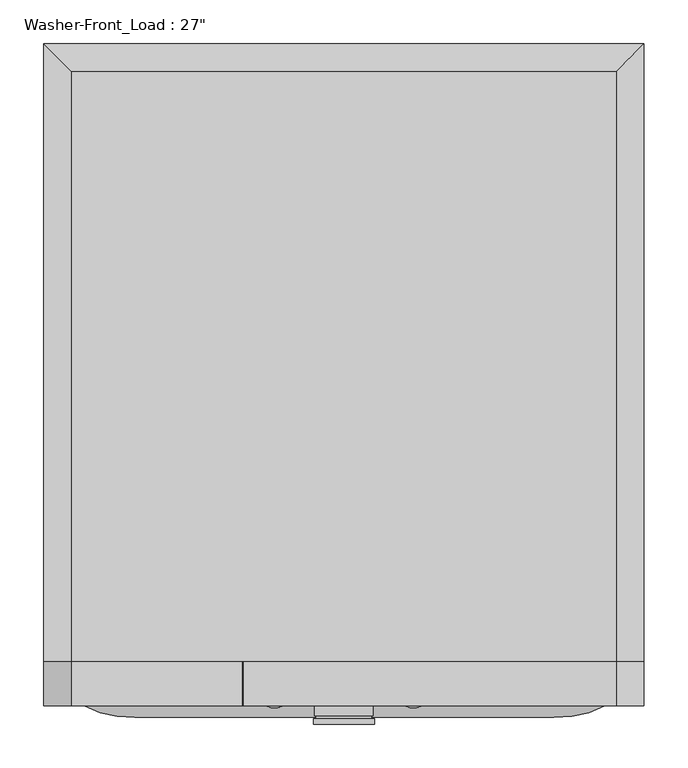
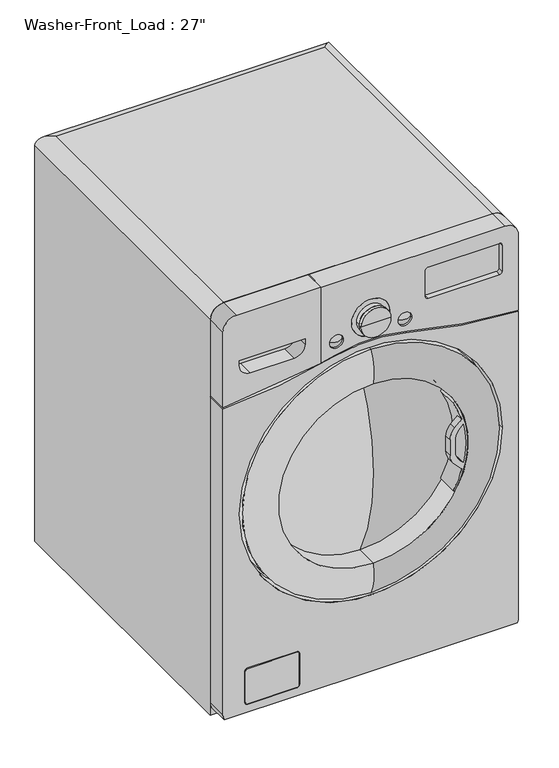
"""IFC4 building model written with IfcOpenShell, lengths in millimetres: proxy geometry."""

from ifc_helpers import new_model, si_unit, point, frame, frame_2d, origin, place, context, project, spatial, polyline, circle_curve, ellipse_curve, trimmed, segment, composite_curve, outline, extrude, source, transform, mapped, element, save
from ifc_brep_helpers import plane_surface, cylinder_surface, revolved_surface, advanced_brep


def proxy_e25b1b2c(model_context):
    return source(origin(), model_context, "Body", "SolidModel", [
        advanced_brep(
        [(-311.15, -806.45, 1001.7125), (311.15, -806.45, 1001.7125), (311.15, -133.35, 1001.7125), (-311.15, -133.35, 1001.7125), (342.9, -101.6, 0.0), (342.9, -806.45, 0.0), (-342.9, -806.45, 0.0), (-342.9, -101.6, 0.0), (-342.9, -101.6, 969.9625), (342.9, -101.6, 969.9625), (-342.9, -806.45, 969.9625), (342.9, -806.45, 969.9625)],
        [
            (0, 1),
            (1, 2),
            (2, 3),
            (3, 0),
            (4, 5),
            (5, 6),
            (6, 7),
            (7, 4),
            (7, 8),
            (8, 9),
            (9, 4),
            (6, 10),
            (10, 8),
            (5, 11),
            (11, 1, circle_curve(frame((311.15, -806.45, 969.9625), z_axis=(0.0, -1.0, 0.0), x_axis=(-1.0, 0.0, 0.0)), 31.75)),
            (0, 10, circle_curve(frame((-311.15, -806.45, 969.9625), z_axis=(0.0, -1.0, 0.0), x_axis=(1.0, 0.0, 0.0)), 31.75)),
            (9, 11),
            (9, 2, ellipse_curve(frame((311.15, -133.35, 969.9625), z_axis=(0.7071067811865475, -0.7071067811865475, 0.0), x_axis=(0.7071067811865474, 0.7071067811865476, 0.0)), 44.9012806, 31.75)),
            (8, 3, ellipse_curve(frame((-311.15, -133.35, 969.9625), z_axis=(0.7071067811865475, 0.7071067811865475, 0.0), x_axis=(-0.7071067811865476, 0.7071067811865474, 0.0)), 44.9012806, 31.75)),
        ],
        [
            plane_surface(frame((-342.9, -101.6, 1001.7125), z_axis=(0.0, 0.0, 1.0), x_axis=(-1.0, 0.0, 0.0))),
            plane_surface(frame((-342.9, -101.6, 0.0), z_axis=(0.0, 0.0, -1.0), x_axis=(1.0, 0.0, 0.0))),
            plane_surface(frame((342.9, -101.6, 1001.7125), z_axis=(0.0, 1.0, 0.0), x_axis=(0.0, 0.0, -1.0))),
            plane_surface(frame((-342.9, -101.6, 1001.7125), z_axis=(-1.0, 0.0, 0.0), x_axis=(0.0, 0.0, -1.0))),
            plane_surface(frame((-342.9, -806.45, 1001.7125), z_axis=(0.0, -1.0, 0.0), x_axis=(0.0, 0.0, -1.0))),
            plane_surface(frame((342.9, -806.45, 1001.7125), z_axis=(1.0, 0.0, 0.0), x_axis=(0.0, 0.0, -1.0))),
            cylinder_surface(frame((311.15, -806.45, 969.9625), z_axis=(0.0, 1.0, 0.0), x_axis=(-1.0, 0.0, 0.0)), 31.75),
            cylinder_surface(frame((342.9, -133.35, 969.9625), z_axis=(-1.0, 0.0, 0.0), x_axis=(0.0, -1.0, 0.0)), 31.75),
            cylinder_surface(frame((-311.15, -101.6, 969.9625), z_axis=(0.0, -1.0, 0.0), x_axis=(1.0, 0.0, 0.0)), 31.75),
        ],
        [
            (0, [[1, 2, 3, 4]]),
            (1, [[5, 6, 7, 8]]),
            (2, [[-8, 9, 10, 11]]),
            (3, [[-7, 12, 13, -9]]),
            (4, [[-6, 14, 15, -1, 16, -12]]),
            (5, [[-5, -11, 17, -14]]),
            (6, [[18, -2, -15, -17]]),
            (7, [[-18, -10, 19, -3]]),
            (8, [[-19, -13, -16, -4]]),
        ],
    ),
        advanced_brep(
        [(311.15, -806.45, 1001.7125), (342.9, -806.45, 969.9625), (342.9, -806.45, 785.0085923), (83.8185478, -806.45, 823.1963288), (-83.8185478, -806.45, 823.1963288), (-114.8640352, -806.45, 815.3447282), (-114.8640352, -806.45, 1001.7125), (-63.5, -806.45, 855.6625), (-95.25, -806.45, 855.6625), (95.25, -806.45, 855.6625), (63.5, -806.45, 855.6625), (-44.45, -806.45, 887.4125), (44.45, -806.45, 887.4125), (-83.8185478, -857.25, 823.1963288), (83.8185478, -857.25, 823.1963288), (342.9, -857.25, 785.0085923), (342.9, -857.25, 969.9625), (311.15, -857.25, 1001.7125), (-114.8640352, -857.25, 1001.7125), (-114.8640352, -857.25, 815.3447282), (-63.5, -857.25, 855.6625), (-95.25, -857.25, 855.6625), (95.25, -857.25, 855.6625), (63.5, -857.25, 855.6625), (298.45, -857.25, 887.4125), (133.35, -857.25, 887.4125), (127.0, -857.25, 893.7625), (127.0, -857.25, 957.2625), (133.35, -857.25, 963.6125), (298.45, -857.25, 963.6125), (304.8, -857.25, 957.2625), (304.8, -857.25, 893.7625), (44.45, -857.25, 887.4125), (-44.45, -857.25, 887.4125), (298.45, -844.55, 887.4125), (304.8, -844.55, 893.7625), (304.8, -844.55, 957.2625), (298.45, -844.55, 963.6125), (133.35, -844.55, 963.6125), (127.0, -844.55, 957.2625), (127.0, -844.55, 893.7625), (133.35, -844.55, 887.4125)],
        [
            (0, 1, circle_curve(frame((311.15, -806.45, 969.9625), z_axis=(0.0, 1.0, 0.0), x_axis=(-1.0, 0.0, 0.0)), 31.75)),
            (1, 2),
            (2, 3, circle_curve(frame((378.000978, -806.45, 1921.1001052), z_axis=(0.0, 1.0, 0.0), x_axis=(-1.0, 0.0, 0.0)), 1136.633628)),
            (3, 4, circle_curve(frame((0.0, -806.45, 510.38125), z_axis=(0.0, -1.0, 0.0), x_axis=(-1.0, 0.0, 0.0)), 323.85)),
            (4, 5, circle_curve(frame((-378.000978, -806.45, 1921.1001052), z_axis=(0.0, 1.0, 0.0), x_axis=(-1.0, 0.0, 0.0)), 1136.633628)),
            (5, 6),
            (6, 0),
            (7, 8, circle_curve(frame((-79.375, -806.45, 855.6625), z_axis=(0.0, -1.0, 0.0), x_axis=(-1.0, 0.0, 0.0)), 15.875)),
            (8, 7, circle_curve(frame((-79.375, -806.45, 855.6625), z_axis=(0.0, -1.0, 0.0), x_axis=(-1.0, 0.0, 0.0)), 15.875)),
            (9, 10, circle_curve(frame((79.375, -806.45, 855.6625), z_axis=(0.0, -1.0, 0.0), x_axis=(-1.0, 0.0, 0.0)), 15.875)),
            (10, 9, circle_curve(frame((79.375, -806.45, 855.6625), z_axis=(0.0, -1.0, 0.0), x_axis=(-1.0, 0.0, 0.0)), 15.875)),
            (11, 12, circle_curve(frame((0.0, -806.45, 887.4125), z_axis=(0.0, -1.0, 0.0), x_axis=(-1.0, 0.0, 0.0)), 44.45)),
            (12, 11, circle_curve(frame((0.0, -806.45, 887.4125), z_axis=(0.0, -1.0, 0.0), x_axis=(-1.0, 0.0, 0.0)), 44.45)),
            (13, 14, circle_curve(frame((0.0, -857.25, 510.38125), z_axis=(0.0, 1.0, 0.0), x_axis=(-1.0, 0.0, 0.0)), 323.85)),
            (14, 15, circle_curve(frame((378.000978, -857.25, 1921.1001052), z_axis=(0.0, -1.0, 0.0), x_axis=(-1.0, 0.0, 0.0)), 1136.633628)),
            (15, 16),
            (16, 17, circle_curve(frame((311.15, -857.25, 969.9625), z_axis=(0.0, -1.0, 0.0), x_axis=(-1.0, 0.0, 0.0)), 31.75)),
            (17, 18),
            (18, 19),
            (19, 13, circle_curve(frame((-378.000978, -857.25, 1921.1001052), z_axis=(0.0, -1.0, 0.0), x_axis=(-1.0, 0.0, 0.0)), 1136.633628)),
            (20, 21, circle_curve(frame((-79.375, -857.25, 855.6625), z_axis=(0.0, 1.0, 0.0), x_axis=(-1.0, 0.0, 0.0)), 15.875)),
            (21, 20, circle_curve(frame((-79.375, -857.25, 855.6625), z_axis=(0.0, 1.0, 0.0), x_axis=(-1.0, 0.0, 0.0)), 15.875)),
            (22, 23, circle_curve(frame((79.375, -857.25, 855.6625), z_axis=(0.0, 1.0, 0.0), x_axis=(-1.0, 0.0, 0.0)), 15.875)),
            (23, 22, circle_curve(frame((79.375, -857.25, 855.6625), z_axis=(0.0, 1.0, 0.0), x_axis=(-1.0, 0.0, 0.0)), 15.875)),
            (24, 25),
            (25, 26, circle_curve(frame((133.35, -857.25, 893.7625), z_axis=(0.0, 1.0, 0.0), x_axis=(-1.0, 0.0, 0.0)), 6.35)),
            (26, 27),
            (27, 28, circle_curve(frame((133.35, -857.25, 957.2625), z_axis=(0.0, 1.0, 0.0), x_axis=(-1.0, 0.0, 0.0)), 6.35)),
            (28, 29),
            (29, 30, circle_curve(frame((298.45, -857.25, 957.2625), z_axis=(0.0, 1.0, 0.0), x_axis=(-1.0, 0.0, 0.0)), 6.35)),
            (30, 31),
            (31, 24, circle_curve(frame((298.45, -857.25, 893.7625), z_axis=(0.0, 1.0, 0.0), x_axis=(-1.0, 0.0, 0.0)), 6.35)),
            (32, 33, circle_curve(frame((0.0, -857.25, 887.4125), z_axis=(0.0, 1.0, 0.0), x_axis=(-1.0, 0.0, 0.0)), 44.45)),
            (33, 32, circle_curve(frame((0.0, -857.25, 887.4125), z_axis=(0.0, 1.0, 0.0), x_axis=(-1.0, 0.0, 0.0)), 44.45)),
            (17, 0),
            (6, 18),
            (16, 1),
            (15, 2),
            (14, 3),
            (13, 4),
            (19, 5),
            (34, 35, circle_curve(frame((298.45, -844.55, 893.7625), z_axis=(0.0, -1.0, 0.0), x_axis=(-1.0, 0.0, 0.0)), 6.35)),
            (35, 36),
            (36, 37, circle_curve(frame((298.45, -844.55, 957.2625), z_axis=(0.0, -1.0, 0.0), x_axis=(-1.0, 0.0, 0.0)), 6.35)),
            (37, 38),
            (38, 39, circle_curve(frame((133.35, -844.55, 957.2625), z_axis=(0.0, -1.0, 0.0), x_axis=(-1.0, 0.0, 0.0)), 6.35)),
            (39, 40),
            (40, 41, circle_curve(frame((133.35, -844.55, 893.7625), z_axis=(0.0, -1.0, 0.0), x_axis=(-1.0, 0.0, 0.0)), 6.35)),
            (41, 34),
            (41, 25),
            (24, 34),
            (40, 26),
            (39, 27),
            (38, 28),
            (37, 29),
            (36, 30),
            (35, 31),
            (7, 20),
            (21, 8),
            (9, 22),
            (23, 10),
            (11, 33),
            (32, 12),
        ],
        [
            plane_surface(frame((279.4, -806.45, 969.9625), z_axis=(0.0, 1.0, 0.0), x_axis=(0.0, 0.0, 1.0))),
            plane_surface(frame((279.4, -857.25, 969.9625), z_axis=(0.0, -1.0, 0.0), x_axis=(0.0, 0.0, -1.0))),
            plane_surface(frame((-311.15, -806.45, 1001.7125), z_axis=(0.0, 0.0, 1.0), x_axis=(0.0, -1.0, 0.0))),
            cylinder_surface(frame((311.15, -857.25, 969.9625), z_axis=(0.0, 1.0, 0.0), x_axis=(-1.0, 0.0, 0.0)), 31.75),
            plane_surface(frame((342.9, -806.45, 969.9625), z_axis=(1.0, 0.0, 0.0), x_axis=(0.0, -1.0, 0.0))),
            cylinder_surface(frame((378.000978, -857.25, 1921.1001052), z_axis=(0.0, 1.0, 0.0), x_axis=(-1.0, 0.0, 0.0)), 1136.633628),
            revolved_surface(polyline([(-323.85, -857.25, 510.38125), (-323.85, -806.45, 510.38125)]), (0.0, -857.25, 510.38125), (0.0, -1.0, 0.0)),
            cylinder_surface(frame((-378.000978, -857.25, 1921.1001052), z_axis=(0.0, 1.0, 0.0), x_axis=(-1.0, 0.0, 0.0)), 1136.633628),
            plane_surface(frame((-114.8640352, -806.45, 1001.7125), z_axis=(-1.0, 0.0, 0.0), x_axis=(0.0, -1.0, 0.0))),
            plane_surface(frame((133.35, -844.55, 887.4125), z_axis=(0.0, -1.0, 0.0), x_axis=(-1.0, 0.0, 0.0))),
            plane_surface(frame((298.45, -844.55, 887.4125), z_axis=(0.0, 0.0, 1.0), x_axis=(0.0, -1.0, 0.0))),
            revolved_surface(polyline([(127.0, -844.55, 893.7625), (127.0, -857.25, 893.7625)]), (133.35, -857.25, 893.7625), (0.0, 1.0, 0.0)),
            plane_surface(frame((127.0, -844.55, 893.7625), z_axis=(1.0, 0.0, 0.0), x_axis=(0.0, -1.0, 0.0))),
            revolved_surface(polyline([(127.0, -844.55, 957.2625), (127.0, -857.25, 957.2625)]), (133.35, -857.25, 957.2625), (0.0, 1.0, 0.0)),
            plane_surface(frame((133.35, -844.55, 963.6125), z_axis=(0.0, 0.0, -1.0), x_axis=(0.0, -1.0, 0.0))),
            revolved_surface(polyline([(292.09999999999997, -844.55, 957.2625), (292.09999999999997, -857.25, 957.2625)]), (298.45, -857.25, 957.2625), (0.0, 1.0, 0.0)),
            plane_surface(frame((304.8, -844.55, 957.2625), z_axis=(-1.0, 0.0, 0.0), x_axis=(0.0, -1.0, 0.0))),
            revolved_surface(polyline([(292.09999999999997, -844.55, 893.7625), (292.09999999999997, -857.25, 893.7625)]), (298.45, -857.25, 893.7625), (0.0, 1.0, 0.0)),
            revolved_surface(polyline([(-95.25, -857.25, 855.6625), (-95.25, -806.45, 855.6625)]), (-79.375, -857.25, 855.6625), (0.0, -1.0, 0.0)),
            revolved_surface(polyline([(63.5, -857.25, 855.6625), (63.5, -806.45, 855.6625)]), (79.375, -857.25, 855.6625), (0.0, -1.0, 0.0)),
            revolved_surface(polyline([(-44.45, -806.45, 887.4125), (-44.45, -857.25, 887.4125)]), (0.0, -857.25, 887.4125), (0.0, 1.0, 0.0)),
        ],
        [
            (0, [[1, 2, 3, 4, 5, 6, 7], [8, 9], [10, 11], [12, 13]]),
            (1, [[14, 15, 16, 17, 18, 19, 20], [21, 22], [23, 24], [25, 26, 27, 28, 29, 30, 31, 32], [33, 34]]),
            (2, [[35, -7, 36, -18]]),
            (3, [[-1, -35, -17, 37]]),
            (4, [[-2, -37, -16, 38]]),
            (5, [[-3, -38, -15, 39]]),
            (6, [[-4, -39, -14, 40]]),
            (7, [[-40, -20, 41, -5]]),
            (8, [[-6, -41, -19, -36]]),
            (9, [[42, 43, 44, 45, 46, 47, 48, 49]]),
            (10, [[-49, 50, -25, 51]]),
            (11, [[-48, 52, -26, -50]]),
            (12, [[-47, 53, -27, -52]]),
            (13, [[-46, 54, -28, -53]]),
            (14, [[-45, 55, -29, -54]]),
            (15, [[-44, 56, -30, -55]]),
            (16, [[-43, 57, -31, -56]]),
            (17, [[-42, -51, -32, -57]]),
            (18, [[-8, 58, -22, 59]]),
            (18, [[-9, -59, -21, -58]]),
            (19, [[-10, 60, -24, 61]]),
            (19, [[-11, -61, -23, -60]]),
            (20, [[62, -33, 63, -12]]),
            (20, [[-62, -13, -63, -34]]),
        ],
    ),
        advanced_brep(
        [(-342.9, -806.45, 785.0085923), (-342.9, -806.45, 969.9625), (-311.15, -806.45, 1001.7125), (-116.4515352, -806.45, 1001.7125), (-116.4515352, -806.45, 814.968154), (-311.15, -857.25, 1001.7125), (-342.9, -857.25, 969.9625), (-342.9, -857.25, 785.0085923), (-116.4515352, -857.25, 814.968154), (-116.4515352, -857.25, 1001.7125), (-152.4, -857.25, 887.4125), (-152.4, -857.25, 874.7125), (-177.8, -857.25, 849.3125), (-279.4, -857.25, 849.3125), (-304.8, -857.25, 874.7125), (-304.8, -857.25, 887.4125), (-152.4, -819.15, 887.4125), (-304.8, -819.15, 887.4125), (-304.8, -819.15, 874.7125), (-279.4, -819.15, 849.3125), (-177.8, -819.15, 849.3125), (-152.4, -819.15, 874.7125)],
        [
            (0, 1),
            (1, 2, circle_curve(frame((-311.15, -806.45, 969.9625), z_axis=(0.0, 1.0, 0.0), x_axis=(-1.0, 0.0, 0.0)), 31.75)),
            (2, 3),
            (3, 4),
            (4, 0, circle_curve(frame((-378.000978, -806.45, 1921.1001052), z_axis=(0.0, 1.0, 0.0), x_axis=(-1.0, 0.0, 0.0)), 1136.633628)),
            (5, 6, circle_curve(frame((-311.15, -857.25, 969.9625), z_axis=(0.0, -1.0, 0.0), x_axis=(-1.0, 0.0, 0.0)), 31.75)),
            (6, 7),
            (7, 8, circle_curve(frame((-378.000978, -857.25, 1921.1001052), z_axis=(0.0, -1.0, 0.0), x_axis=(-1.0, 0.0, 0.0)), 1136.633628)),
            (8, 9),
            (9, 5),
            (10, 11),
            (11, 12, circle_curve(frame((-177.8, -857.25, 874.7125), z_axis=(0.0, 1.0, 0.0), x_axis=(-1.0, 0.0, 0.0)), 25.4)),
            (12, 13),
            (13, 14, circle_curve(frame((-279.4, -857.25, 874.7125), z_axis=(0.0, 1.0, 0.0), x_axis=(-1.0, 0.0, 0.0)), 25.4)),
            (14, 15),
            (15, 10),
            (2, 5),
            (9, 3),
            (7, 0),
            (4, 8),
            (6, 1),
            (16, 17),
            (17, 18),
            (18, 19, circle_curve(frame((-279.4, -819.15, 874.7125), z_axis=(0.0, -1.0, 0.0), x_axis=(-1.0, 0.0, 0.0)), 25.4)),
            (19, 20),
            (20, 21, circle_curve(frame((-177.8, -819.15, 874.7125), z_axis=(0.0, -1.0, 0.0), x_axis=(-1.0, 0.0, 0.0)), 25.4)),
            (21, 16),
            (21, 11),
            (10, 16),
            (20, 12),
            (19, 13),
            (18, 14),
            (17, 15),
        ],
        [
            plane_surface(frame((279.4, -806.45, 969.9625), z_axis=(0.0, 1.0, 0.0), x_axis=(0.0, 0.0, 1.0))),
            plane_surface(frame((279.4, -857.25, 969.9625), z_axis=(0.0, -1.0, 0.0), x_axis=(0.0, 0.0, -1.0))),
            plane_surface(frame((-311.15, -806.45, 1001.7125), z_axis=(0.0, 0.0, 1.0), x_axis=(0.0, -1.0, 0.0))),
            cylinder_surface(frame((-378.000978, -857.25, 1921.1001052), z_axis=(0.0, 1.0, 0.0), x_axis=(-1.0, 0.0, 0.0)), 1136.633628),
            plane_surface(frame((-342.9, -806.45, 785.0085923), z_axis=(-1.0, 0.0, 0.0), x_axis=(0.0, -1.0, 0.0))),
            cylinder_surface(frame((-311.15, -857.25, 969.9625), z_axis=(0.0, 1.0, 0.0), x_axis=(-1.0, 0.0, 0.0)), 31.75),
            plane_surface(frame((-152.4, -819.15, 887.4125), z_axis=(0.0, -1.0, 0.0), x_axis=(0.0, 0.0, -1.0))),
            plane_surface(frame((-152.4, -819.15, 887.4125), z_axis=(-1.0, 0.0, 0.0), x_axis=(0.0, -1.0, 0.0))),
            revolved_surface(polyline([(-203.20000000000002, -819.15, 874.7125), (-203.20000000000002, -857.25, 874.7125)]), (-177.8, -857.25, 874.7125), (0.0, 1.0, 0.0)),
            plane_surface(frame((-177.8, -819.15, 849.3125), z_axis=(0.0, 0.0, 1.0), x_axis=(0.0, -1.0, 0.0))),
            revolved_surface(polyline([(-304.79999999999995, -819.15, 874.7125), (-304.79999999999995, -857.25, 874.7125)]), (-279.4, -857.25, 874.7125), (0.0, 1.0, 0.0)),
            plane_surface(frame((-304.8, -819.15, 874.7125), z_axis=(1.0, 0.0, 0.0), x_axis=(0.0, -1.0, 0.0))),
            plane_surface(frame((-304.8, -819.15, 887.4125), z_axis=(0.0, 0.0, -1.0), x_axis=(0.0, -1.0, 0.0))),
            plane_surface(frame((-116.4515352, -806.45, 814.6331938), z_axis=(1.0, 0.0, 0.0), x_axis=(0.0, -1.0, 0.0))),
        ],
        [
            (0, [[1, 2, 3, 4, 5]]),
            (1, [[6, 7, 8, 9, 10], [11, 12, 13, 14, 15, 16]]),
            (2, [[17, -10, 18, -3]]),
            (3, [[19, -5, 20, -8]]),
            (4, [[-1, -19, -7, 21]]),
            (5, [[-2, -21, -6, -17]]),
            (6, [[22, 23, 24, 25, 26, 27]]),
            (7, [[-27, 28, -11, 29]]),
            (8, [[-26, 30, -12, -28]]),
            (9, [[-25, 31, -13, -30]]),
            (10, [[-24, 32, -14, -31]]),
            (11, [[-23, 33, -15, -32]]),
            (12, [[-22, -29, -16, -33]]),
            (13, [[-4, -18, -9, -20]]),
        ],
    ),
        advanced_brep(
        [(-342.9, -806.45, 781.8320815), (-82.9967973, -806.45, 820.1295143), (82.9967973, -806.45, 820.1295143), (342.9, -806.45, 781.8320815), (342.9, -806.45, 31.75), (340.2493557, -806.45, 19.05), (-340.2493557, -806.45, 19.05), (-342.9, -806.45, 31.75), (304.8, -806.45, 510.38125), (-304.8, -806.45, 510.38125), (-342.9, -857.25, 781.8320815), (-342.9, -857.25, 31.75), (-340.2493557, -857.25, 19.05), (340.2493557, -857.25, 19.05), (342.9, -857.25, 31.75), (342.9, -857.25, 781.8320815), (82.9967973, -857.25, 820.1295143), (-82.9967973, -857.25, 820.1295143), (304.8, -857.25, 510.38125), (-304.8, -857.25, 510.38125), (-165.1, -857.25, 120.65), (-165.1, -857.25, 44.45), (-171.45, -857.25, 38.1), (-285.75, -857.25, 38.1), (-292.1, -857.25, 44.45), (-292.1, -857.25, 120.65), (-285.75, -857.25, 127.0), (-171.45, -857.25, 127.0), (-166.6875, -857.25, 44.45), (-166.6875, -857.25, 120.65), (-171.45, -857.25, 125.4125), (-285.75, -857.25, 125.4125), (-290.5125, -857.25, 120.65), (-290.5125, -857.25, 44.45), (-285.75, -857.25, 39.6875), (-171.45, -857.25, 39.6875), (-166.6875, -843.75625, 44.45), (-166.6875, -843.75625, 120.65), (-165.1, -843.75625, 120.65), (-165.1, -843.75625, 44.45), (-285.75, -843.75625, 39.6875), (-171.45, -843.75625, 39.6875), (-171.45, -843.75625, 38.1), (-285.75, -843.75625, 38.1), (-290.5125, -843.75625, 120.65), (-290.5125, -843.75625, 44.45), (-292.1, -843.75625, 44.45), (-292.1, -843.75625, 120.65), (-171.45, -843.75625, 125.4125), (-285.75, -843.75625, 125.4125), (-285.75, -843.75625, 127.0), (-171.45, -843.75625, 127.0)],
        [
            (0, 1, circle_curve(frame((-378.000978, -806.45, 1921.1001052), z_axis=(0.0, -1.0, 0.0), x_axis=(-1.0, 0.0, 0.0)), 1139.808628)),
            (1, 2, circle_curve(frame((0.0, -806.45, 510.38125), z_axis=(0.0, 1.0, 0.0), x_axis=(-1.0, 0.0, 0.0)), 320.675)),
            (2, 3, circle_curve(frame((378.000978, -806.45, 1921.1001052), z_axis=(0.0, -1.0, 0.0), x_axis=(-1.0, 0.0, 0.0)), 1139.808628)),
            (3, 4),
            (4, 5, circle_curve(frame((311.15, -806.45, 31.75), z_axis=(0.0, 1.0, 0.0), x_axis=(-1.0, 0.0, 0.0)), 31.75)),
            (5, 6),
            (6, 7, circle_curve(frame((-311.15, -806.45, 31.75), z_axis=(0.0, 1.0, 0.0), x_axis=(-1.0, 0.0, 0.0)), 31.75)),
            (7, 0),
            (8, 9, circle_curve(frame((0.0, -806.45, 510.38125), z_axis=(0.0, -1.0, 0.0), x_axis=(-1.0, 0.0, 0.0)), 304.8)),
            (9, 8, circle_curve(frame((0.0, -806.45, 510.38125), z_axis=(0.0, -1.0, 0.0), x_axis=(-1.0, 0.0, 0.0)), 304.8)),
            (10, 11),
            (11, 12, circle_curve(frame((-311.15, -857.25, 31.75), z_axis=(0.0, -1.0, 0.0), x_axis=(-1.0, 0.0, 0.0)), 31.75)),
            (12, 13),
            (13, 14, circle_curve(frame((311.15, -857.25, 31.75), z_axis=(0.0, -1.0, 0.0), x_axis=(-1.0, 0.0, 0.0)), 31.75)),
            (14, 15),
            (15, 16, circle_curve(frame((378.000978, -857.25, 1921.1001052), z_axis=(0.0, 1.0, 0.0), x_axis=(-1.0, 0.0, 0.0)), 1139.808628)),
            (16, 17, circle_curve(frame((0.0, -857.25, 510.38125), z_axis=(0.0, -1.0, 0.0), x_axis=(-1.0, 0.0, 0.0)), 320.675)),
            (17, 10, circle_curve(frame((-378.000978, -857.25, 1921.1001052), z_axis=(0.0, 1.0, 0.0), x_axis=(-1.0, 0.0, 0.0)), 1139.808628)),
            (18, 19, circle_curve(frame((0.0, -857.25, 510.38125), z_axis=(0.0, 1.0, 0.0), x_axis=(-1.0, 0.0, 0.0)), 304.8)),
            (19, 18, circle_curve(frame((0.0, -857.25, 510.38125), z_axis=(0.0, 1.0, 0.0), x_axis=(-1.0, 0.0, 0.0)), 304.8)),
            (20, 21),
            (21, 22, circle_curve(frame((-171.45, -857.25, 44.45), z_axis=(0.0, 1.0, 0.0), x_axis=(1.0, 0.0, 0.0)), 6.35)),
            (22, 23),
            (23, 24, circle_curve(frame((-285.75, -857.25, 44.45), z_axis=(0.0, 1.0, 0.0), x_axis=(0.0, 0.0, -1.0)), 6.35)),
            (24, 25),
            (25, 26, circle_curve(frame((-285.75, -857.25, 120.65), z_axis=(0.0, 1.0, 0.0), x_axis=(-1.0, 0.0, 0.0)), 6.35)),
            (26, 27),
            (27, 20, circle_curve(frame((-171.45, -857.25, 120.65), z_axis=(0.0, 1.0, 0.0), x_axis=(0.0, 0.0, 1.0)), 6.35)),
            (28, 29),
            (29, 30, circle_curve(frame((-171.45, -857.25, 120.65), z_axis=(0.0, -1.0, 0.0), x_axis=(0.0, 0.0, 1.0)), 4.7625)),
            (30, 31),
            (31, 32, circle_curve(frame((-285.75, -857.25, 120.65), z_axis=(0.0, -1.0, 0.0), x_axis=(-1.0, 0.0, 0.0)), 4.7625)),
            (32, 33),
            (33, 34, circle_curve(frame((-285.75, -857.25, 44.45), z_axis=(0.0, -1.0, 0.0), x_axis=(0.0, 0.0, -1.0)), 4.7625)),
            (34, 35),
            (35, 28, circle_curve(frame((-171.45, -857.25, 44.45), z_axis=(0.0, -1.0, 0.0), x_axis=(1.0, 0.0, 0.0)), 4.7625)),
            (3, 15),
            (14, 4),
            (7, 11),
            (10, 0),
            (17, 1),
            (16, 2),
            (13, 5),
            (6, 12),
            (8, 18),
            (19, 9),
            (28, 36),
            (36, 37),
            (37, 29),
            (38, 39),
            (39, 21),
            (20, 38),
            (34, 40),
            (40, 41),
            (41, 35),
            (42, 43),
            (43, 23),
            (22, 42),
            (32, 44),
            (44, 45),
            (45, 33),
            (46, 47),
            (47, 25),
            (24, 46),
            (30, 48),
            (48, 49),
            (49, 31),
            (50, 51),
            (51, 27),
            (26, 50),
            (37, 48, circle_curve(frame((-171.45, -843.75625, 120.65), z_axis=(0.0, -1.0, 0.0), x_axis=(0.0, 0.0, 1.0)), 4.7625)),
            (51, 38, circle_curve(frame((-171.45, -843.75625, 120.65), z_axis=(0.0, 1.0, 0.0), x_axis=(0.0, 0.0, 1.0)), 6.35)),
            (41, 36, circle_curve(frame((-171.45, -843.75625, 44.45), z_axis=(0.0, -1.0, 0.0), x_axis=(1.0, 0.0, 0.0)), 4.7625)),
            (39, 42, circle_curve(frame((-171.45, -843.75625, 44.45), z_axis=(0.0, 1.0, 0.0), x_axis=(1.0, 0.0, 0.0)), 6.35)),
            (45, 40, circle_curve(frame((-285.75, -843.75625, 44.45), z_axis=(0.0, -1.0, 0.0), x_axis=(0.0, 0.0, -1.0)), 4.7625)),
            (43, 46, circle_curve(frame((-285.75, -843.75625, 44.45), z_axis=(0.0, 1.0, 0.0), x_axis=(0.0, 0.0, -1.0)), 6.35)),
            (50, 47, circle_curve(frame((-285.75, -843.75625, 120.65), z_axis=(0.0, -1.0, 0.0), x_axis=(-1.0, 0.0, 0.0)), 6.35)),
            (44, 49, circle_curve(frame((-285.75, -843.75625, 120.65), z_axis=(0.0, 1.0, 0.0), x_axis=(-1.0, 0.0, 0.0)), 4.7625)),
        ],
        [
            plane_surface(frame((279.4, -806.45, 969.9625), z_axis=(0.0, 1.0, 0.0), x_axis=(0.0, 0.0, 1.0))),
            plane_surface(frame((279.4, -857.25, 969.9625), z_axis=(0.0, -1.0, 0.0), x_axis=(0.0, 0.0, -1.0))),
            plane_surface(frame((342.9, -806.45, 781.8320815), z_axis=(1.0, 0.0, 0.0), x_axis=(0.0, -1.0, 0.0))),
            plane_surface(frame((-342.9, -806.45, 31.75), z_axis=(-1.0, 0.0, 0.0), x_axis=(0.0, -1.0, 0.0))),
            revolved_surface(polyline([(-1517.809606, -857.25, 1921.1001052), (-1517.809606, -806.45, 1921.1001052)]), (-378.000978, -857.25, 1921.1001052), (0.0, -1.0, 0.0)),
            cylinder_surface(frame((0.0, -857.25, 510.38125), z_axis=(0.0, 1.0, 0.0), x_axis=(-1.0, 0.0, 0.0)), 320.675),
            revolved_surface(polyline([(-761.80765, -857.25, 1921.1001052), (-761.80765, -806.45, 1921.1001052)]), (378.000978, -857.25, 1921.1001052), (0.0, -1.0, 0.0)),
            cylinder_surface(frame((311.15, -857.25, 31.75), z_axis=(0.0, 1.0, 0.0), x_axis=(-1.0, 0.0, 0.0)), 31.75),
            cylinder_surface(frame((-311.15, -857.25, 31.75), z_axis=(0.0, 1.0, 0.0), x_axis=(-1.0, 0.0, 0.0)), 31.75),
            revolved_surface(polyline([(-304.8, -857.25, 510.38125), (-304.8, -806.45, 510.38125)]), (0.0, -857.25, 510.38125), (0.0, -1.0, 0.0)),
            plane_surface(frame((-166.6875, -843.75625, 120.65), z_axis=(1.0, 0.0, 0.0), x_axis=(0.0, 0.0, -1.0))),
            plane_surface(frame((-165.1, -857.25, 120.65), z_axis=(-1.0, 0.0, 0.0), x_axis=(0.0, 0.0, -1.0))),
            plane_surface(frame((-171.45, -843.75625, 39.6875), z_axis=(0.0, 0.0, -1.0), x_axis=(-1.0, 0.0, 0.0))),
            plane_surface(frame((-171.45, -857.25, 38.1), z_axis=(0.0, 0.0, 1.0), x_axis=(-1.0, 0.0, 0.0))),
            plane_surface(frame((-290.5125, -843.75625, 44.45), z_axis=(-1.0, 0.0, 0.0), x_axis=(0.0, 0.0, 1.0))),
            plane_surface(frame((-292.1, -857.25, 44.45), z_axis=(1.0, 0.0, 0.0), x_axis=(0.0, 0.0, 1.0))),
            plane_surface(frame((-285.75, -843.75625, 125.4125), z_axis=(0.0, 0.0, 1.0), x_axis=(1.0, 0.0, 0.0))),
            plane_surface(frame((-285.75, -857.25, 127.0), z_axis=(0.0, 0.0, -1.0), x_axis=(1.0, 0.0, 0.0))),
            cylinder_surface(frame((-171.45, -857.25, 120.65), z_axis=(0.0, 1.0, 0.0), x_axis=(0.0, 0.0, 1.0)), 4.7625),
            revolved_surface(polyline([(-171.45, -843.75625, 127.0), (-171.45, -857.25, 127.0)]), (-171.45, -857.25, 120.65), (0.0, 1.0, 0.0)),
            cylinder_surface(frame((-171.45, -857.25, 44.45), z_axis=(0.0, 1.0, 0.0), x_axis=(1.0, 0.0, 0.0)), 4.7625),
            revolved_surface(polyline([(-165.1, -843.75625, 44.45), (-165.1, -857.25, 44.45)]), (-171.45, -857.25, 44.45), (0.0, 1.0, 0.0)),
            cylinder_surface(frame((-285.75, -857.25, 44.45), z_axis=(0.0, 1.0, 0.0), x_axis=(0.0, 0.0, -1.0)), 4.7625),
            revolved_surface(polyline([(-285.75, -843.75625, 38.1), (-285.75, -857.25, 38.1)]), (-285.75, -857.25, 44.45), (0.0, 1.0, 0.0)),
            plane_surface(frame((-285.75, -843.75625, 120.65), z_axis=(0.0, -1.0, 0.0), x_axis=(-1.0, 0.0, 0.0))),
            cylinder_surface(frame((-285.75, -857.25, 120.65), z_axis=(0.0, 1.0, 0.0), x_axis=(-1.0, 0.0, 0.0)), 4.7625),
            revolved_surface(polyline([(-292.1, -843.75625, 120.65), (-292.1, -857.25, 120.65)]), (-285.75, -857.25, 120.65), (0.0, 1.0, 0.0)),
            plane_surface(frame((342.9, -806.45, 19.05), z_axis=(0.0, 0.0, -1.0), x_axis=(-1.0, 0.0, 0.0))),
        ],
        [
            (0, [[1, 2, 3, 4, 5, 6, 7, 8], [9, 10]]),
            (1, [[11, 12, 13, 14, 15, 16, 17, 18], [19, 20], [21, 22, 23, 24, 25, 26, 27, 28]]),
            (1, [[29, 30, 31, 32, 33, 34, 35, 36]]),
            (2, [[-4, 37, -15, 38]]),
            (3, [[-8, 39, -11, 40]]),
            (4, [[-1, -40, -18, 41]]),
            (5, [[-2, -41, -17, 42]]),
            (6, [[-3, -42, -16, -37]]),
            (7, [[-38, -14, 43, -5]]),
            (8, [[-39, -7, 44, -12]]),
            (9, [[-9, 45, -20, 46]]),
            (9, [[-10, -46, -19, -45]]),
            (10, [[47, 48, 49, -29]]),
            (11, [[50, 51, -21, 52]]),
            (12, [[53, 54, 55, -35]]),
            (13, [[56, 57, -23, 58]]),
            (14, [[59, 60, 61, -33]]),
            (15, [[62, 63, -25, 64]]),
            (16, [[65, 66, 67, -31]]),
            (17, [[68, 69, -27, 70]]),
            (18, [[-49, 71, -65, -30]]),
            (19, [[-52, -28, -69, 72]]),
            (20, [[-47, -36, -55, 73]]),
            (21, [[-51, 74, -58, -22]]),
            (22, [[-53, -34, -61, 75]]),
            (23, [[-57, 76, -64, -24]]),
            (24, [[-50, -72, -68, 77, -62, -76, -56, -74], [-48, -73, -54, -75, -60, 78, -66, -71]]),
            (25, [[-59, -32, -67, -78]]),
            (26, [[-63, -77, -70, -26]]),
            (27, [[-6, -43, -13, -44]]),
        ],
    ),
        advanced_brep(
        [(0.0, -806.45, 290.0924111), (0.0, -806.45, 730.6700889), (0.0, -806.45, 510.38125), (0.0, -813.7906335, 290.0924111), (0.0, -813.7906335, 730.6700889), (0.0, -867.4304538, 510.38125)],
        [
            (0, 1, circle_curve(frame((0.0, -806.45, 510.38125), z_axis=(0.0, 1.0, 0.0), x_axis=(0.0, 0.0, 1.0)), 220.2888389)),
            (1, 2),
            (2, 0),
            (1, 0, circle_curve(frame((0.0, -806.45, 510.38125), z_axis=(0.0, 1.0, 0.0), x_axis=(0.0, 0.0, 1.0)), 220.2888389)),
            (3, 4, circle_curve(frame((0.0, -813.7906335, 510.38125), z_axis=(0.0, 1.0, 0.0), x_axis=(0.0, 0.0, 1.0)), 220.2888389)),
            (4, 1),
            (0, 3),
            (4, 3, circle_curve(frame((0.0, -813.7906335, 510.38125), z_axis=(0.0, 1.0, 0.0), x_axis=(0.0, 0.0, 1.0)), 220.2888389)),
            (5, 4, circle_curve(frame((0.0, -388.2677479, 510.38125), z_axis=(-1.0, 0.0, 0.0), x_axis=(0.0, 1.0, 0.0)), 479.1627059)),
            (3, 5, circle_curve(frame((0.0, -388.2677479, 510.38125), z_axis=(-1.0, 0.0, 0.0), x_axis=(0.0, 1.0, 0.0)), 479.1627059)),
        ],
        [
            plane_surface(frame((0.0, -806.45, 510.38125), z_axis=(0.0, 1.0, 0.0), x_axis=(0.0, 0.0, 1.0))),
            cylinder_surface(frame((0.0, 2097.4086068, 510.38125), z_axis=(0.0, -1.0, 0.0), x_axis=(0.0, 0.0, 1.0)), 220.2888389),
            revolved_surface(trimmed(ellipse_curve(frame((0.0, -388.2677479, 510.38125), z_axis=(1.0, 0.0, 0.0), x_axis=(0.0, 1.0, 0.0)), 479.1627059, 479.1627059), [point((0.0, -813.7906335, 730.6700889))], [point((0.0, -867.4304538, 510.38125))], True, "CARTESIAN"), (0.0, 2097.4086068, 510.38125), (0.0, -1.0, 0.0)),
        ],
        [
            (0, [[1, 2, 3]]),
            (0, [[4, -3, -2]]),
            (1, [[5, 6, -1, 7]]),
            (1, [[8, -7, -4, -6]]),
            (2, [[9, -5, 10]]),
            (2, [[-10, -8, -9]]),
        ],
    ),
        advanced_brep(
        [(0.0, -867.4304538, 290.0924111), (0.0, -867.4304538, 730.6700889), (0.0, -857.25, 808.83125), (0.0, -857.25, 211.93125), (0.0, -806.45, 290.0924111), (0.0, -806.45, 730.6700889), (0.0, -806.45, 211.93125), (0.0, -806.45, 808.83125)],
        [
            (0, 1, circle_curve(frame((0.0, -867.4304538, 510.38125), z_axis=(0.0, 1.0, 0.0), x_axis=(0.0, 0.0, 1.0)), 220.2888389)),
            (1, 2, circle_curve(frame((0.0, -760.8552479, 756.5322996), z_axis=(-1.0, 0.0, 0.0), x_axis=(0.0, 1.0, 0.0)), 109.6682655)),
            (2, 3, circle_curve(frame((0.0, -857.25, 510.38125), z_axis=(0.0, -1.0, 0.0), x_axis=(0.0, 0.0, 1.0)), 298.45)),
            (3, 0, circle_curve(frame((0.0, -760.8552479, 264.2302004), z_axis=(-1.0, 0.0, 0.0), x_axis=(0.0, 1.0, 0.0)), 109.6682655)),
            (1, 0, circle_curve(frame((0.0, -867.4304538, 510.38125), z_axis=(0.0, 1.0, 0.0), x_axis=(0.0, 0.0, 1.0)), 220.2888389)),
            (3, 2, circle_curve(frame((0.0, -857.25, 510.38125), z_axis=(0.0, -1.0, 0.0), x_axis=(0.0, 0.0, 1.0)), 298.45)),
            (4, 5, circle_curve(frame((0.0, -806.45, 510.38125), z_axis=(0.0, 1.0, 0.0), x_axis=(0.0, 0.0, 1.0)), 220.2888389)),
            (5, 1),
            (0, 4),
            (5, 4, circle_curve(frame((0.0, -806.45, 510.38125), z_axis=(0.0, 1.0, 0.0), x_axis=(0.0, 0.0, 1.0)), 220.2888389)),
            (6, 7, circle_curve(frame((0.0, -806.45, 510.38125), z_axis=(0.0, 1.0, 0.0), x_axis=(0.0, 0.0, 1.0)), 298.45)),
            (7, 5),
            (4, 6),
            (7, 6, circle_curve(frame((0.0, -806.45, 510.38125), z_axis=(0.0, 1.0, 0.0), x_axis=(0.0, 0.0, 1.0)), 298.45)),
            (2, 7),
            (6, 3),
        ],
        [
            revolved_surface(trimmed(ellipse_curve(frame((0.0, -760.8552479, 756.5322996), z_axis=(1.0, 0.0, 0.0), x_axis=(0.0, 1.0, 0.0)), 109.6682655, 109.6682655), [point((0.0, -857.25, 808.83125))], [point((0.0, -867.4304538, 730.6700889))], True, "CARTESIAN"), (0.0, 2097.4086068, 510.38125), (0.0, -1.0, 0.0)),
            revolved_surface(polyline([(0.0, -867.4304538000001, 730.6700889), (0.0, -806.4500000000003, 730.6700889)]), (0.0, 2097.4086068, 510.38125), (0.0, -1.0, 0.0)),
            plane_surface(frame((0.0, -806.45, 510.38125), z_axis=(0.0, 1.0, 0.0), x_axis=(0.0, 0.0, 1.0))),
            cylinder_surface(frame((0.0, 2097.4086068, 510.38125), z_axis=(0.0, -1.0, 0.0), x_axis=(0.0, 0.0, 1.0)), 298.45),
        ],
        [
            (0, [[1, 2, 3, 4]]),
            (0, [[5, -4, 6, -2]]),
            (1, [[7, 8, -1, 9]]),
            (1, [[10, -9, -5, -8]]),
            (2, [[11, 12, -7, 13]]),
            (2, [[14, -13, -10, -12]]),
            (3, [[-3, 15, -11, 16]]),
            (3, [[-6, -16, -14, -15]]),
        ],
    ),
        extrude(outline(composite_curve([segment(trimmed(circle_curve(frame_2d((887.4125, 0.0)), 44.45), [point((887.4125, 44.45))], [point((887.4125, -44.45))], False, "CARTESIAN"), True, "CONTINUOUS"), segment(trimmed(circle_curve(frame_2d((887.4125, 0.0)), 44.45), [point((887.4125, -44.45))], [point((887.4125, 44.45))], False, "CARTESIAN"), True, "CONTINUOUS")], self_intersect=False)), frame((0.0, -857.25, 0.0), z_axis=(0.0, 1.0, 0.0), x_axis=(0.0, 0.0, 1.0)), (0.0, 0.0, 1.0), 50.8),
        advanced_brep(
        [(190.7757307, -813.7906335, 400.2368305), (185.4714685, -813.7906335, 403.2992477), (185.4714685, -813.7906335, 617.4632523), (190.7757307, -813.7906335, 620.5256695), (190.7757307, -867.4304538, 400.2368305), (190.7757307, -867.4304538, 620.5256695), (185.4714685, -867.4304538, 617.4632523), (205.2548958, -867.4304538, 571.5093823), (189.4682701, -867.4304538, 555.7227566), (178.3090385, -867.4304538, 528.7819882), (178.3090385, -867.4304538, 492.8724747), (189.4682701, -867.4304538, 465.9317063), (205.4586116, -867.4304538, 449.9413648), (185.4714685, -867.4304538, 403.2992477), (208.9695507, -867.4304538, 557.2635249), (209.1319021, -867.4304538, 464.2285865), (202.1682701, -867.4304538, 471.1922186), (191.0090385, -867.4304538, 498.1329869), (191.0090385, -867.4304538, 523.521476), (202.1682701, -867.4304538, 550.4622443), (205.4586116, -850.6616291, 449.9413648), (209.1319021, -850.6616291, 464.2285865), (208.9695507, -850.6616291, 557.2635249), (205.2548958, -850.6616291, 571.5093823), (202.1682701, -850.6616291, 550.4622443), (191.0090385, -850.6616291, 523.521476), (191.0090385, -850.6616291, 498.1329869), (202.1682701, -850.6616291, 471.1922186), (189.4682701, -850.6616291, 465.9317063), (178.3090385, -850.6616291, 492.8724747), (178.3090385, -850.6616291, 528.7819882), (189.4682701, -850.6616291, 555.7227566)],
        [
            (0, 1),
            (1, 2, circle_curve(frame((0.0, -813.7906335, 510.38125), z_axis=(0.0, -1.0, 0.0), x_axis=(-1.0, 0.0, 0.0)), 214.1640045)),
            (2, 3),
            (3, 0, circle_curve(frame((0.0, -813.7906335, 510.38125), z_axis=(0.0, 1.0, 0.0), x_axis=(-1.0, 0.0, 0.0)), 220.2888389)),
            (4, 5, circle_curve(frame((0.0, -867.4304538, 510.38125), z_axis=(0.0, -1.0, 0.0), x_axis=(-1.0, 0.0, 0.0)), 220.2888389)),
            (5, 6),
            (6, 7, circle_curve(frame((0.0, -867.4304538, 510.38125), z_axis=(0.0, 1.0, 0.0), x_axis=(-1.0, 0.0, 0.0)), 214.1640045)),
            (7, 8),
            (8, 9, circle_curve(frame((216.4090385, -867.4304538, 528.7819882), z_axis=(0.0, -1.0, 0.0), x_axis=(-1.0, 0.0, 0.0)), 38.1)),
            (9, 10),
            (10, 11, circle_curve(frame((216.4090385, -867.4304538, 492.8724747), z_axis=(0.0, -1.0, 0.0), x_axis=(-1.0, 0.0, 0.0)), 38.1)),
            (11, 12),
            (12, 13, circle_curve(frame((0.0, -867.4304538, 510.38125), z_axis=(0.0, 1.0, 0.0), x_axis=(-1.0, 0.0, 0.0)), 214.1640045)),
            (13, 4),
            (14, 15, circle_curve(frame((0.0, -867.4304538, 510.38125), z_axis=(0.0, 1.0, 0.0), x_axis=(-1.0, 0.0, 0.0)), 214.1640045)),
            (15, 16),
            (16, 17, circle_curve(frame((229.1090385, -867.4304538, 498.1329869), z_axis=(0.0, 1.0, 0.0), x_axis=(-1.0, 0.0, 0.0)), 38.1)),
            (17, 18),
            (18, 19, circle_curve(frame((229.1090385, -867.4304538, 523.521476), z_axis=(0.0, 1.0, 0.0), x_axis=(-1.0, 0.0, 0.0)), 38.1)),
            (19, 14),
            (1, 13),
            (12, 20),
            (20, 21, circle_curve(frame((0.0, -850.6616291, 510.38125), z_axis=(0.0, -1.0, 0.0), x_axis=(-1.0, 0.0, 0.0)), 214.1640045)),
            (21, 15),
            (14, 22),
            (22, 23, circle_curve(frame((0.0, -850.6616291, 510.38125), z_axis=(0.0, -1.0, 0.0), x_axis=(-1.0, 0.0, 0.0)), 214.1640045)),
            (23, 7),
            (6, 2),
            (3, 5),
            (4, 0),
            (24, 25, circle_curve(frame((229.1090385, -850.6616291, 523.521476), z_axis=(0.0, -1.0, 0.0), x_axis=(-1.0, 0.0, 0.0)), 38.1)),
            (25, 26),
            (26, 27, circle_curve(frame((229.1090385, -850.6616291, 498.1329869), z_axis=(0.0, -1.0, 0.0), x_axis=(-1.0, 0.0, 0.0)), 38.1)),
            (27, 21),
            (20, 28),
            (28, 29, circle_curve(frame((216.4090385, -850.6616291, 492.8724747), z_axis=(0.0, 1.0, 0.0), x_axis=(-1.0, 0.0, 0.0)), 38.1)),
            (29, 30),
            (30, 31, circle_curve(frame((216.4090385, -850.6616291, 528.7819882), z_axis=(0.0, 1.0, 0.0), x_axis=(-1.0, 0.0, 0.0)), 38.1)),
            (31, 23),
            (22, 24),
            (25, 18),
            (17, 26),
            (27, 16),
            (11, 28),
            (29, 10),
            (9, 30),
            (31, 8),
            (19, 24),
        ],
        [
            plane_surface(frame((190.7757307, -813.7906335, 400.2368305), z_axis=(0.0, 1.0000000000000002, 0.0), x_axis=(-0.8660254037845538, 0.0, 0.49999999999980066))),
            plane_surface(frame((190.7757307, -867.4304538, 400.2368305), z_axis=(0.0, -1.0000000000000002, 0.0), x_axis=(0.8660254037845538, 0.0, -0.49999999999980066))),
            revolved_surface(polyline([(-214.1640045, -867.4304538, 510.38125), (-214.1640045, -813.7906335, 510.38125)]), (0.0, -867.4304538, 510.38125), (0.0, -1.0, 0.0)),
            cylinder_surface(frame((0.0, -867.4304538, 510.38125), z_axis=(0.0, 1.0, 0.0), x_axis=(-1.0, 0.0, 0.0)), 220.2888389),
            plane_surface(frame((190.7757307, -813.7906335, 400.2368305), z_axis=(-0.49999999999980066, 0.0, -0.8660254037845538), x_axis=(0.0, -1.0, 0.0))),
            plane_surface(frame((185.4714685, -813.7906335, 617.4632523), z_axis=(-0.5000000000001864, 0.0, 0.8660254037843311), x_axis=(0.0, -1.0, 0.0))),
            plane_surface(frame((191.0090385, -850.6616291, 523.521476), z_axis=(0.0, 1.0, 0.0), x_axis=(0.0, 0.0, -1.0))),
            plane_surface(frame((191.0090385, -850.6616291, 523.521476), z_axis=(1.0, 0.0, 3.838670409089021e-12), x_axis=(0.0, -1.0, 0.0))),
            plane_surface(frame((202.1682701, -850.6616291, 471.1922186), z_axis=(0.7071067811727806, 0.0, 0.7071067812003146), x_axis=(0.0, -1.0, 0.0))),
            plane_surface(frame((205.4586116, -850.6616291, 449.9413648), z_axis=(-0.7071067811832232, 0.0, -0.7071067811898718), x_axis=(0.0, -1.0, 0.0))),
            plane_surface(frame((178.3090385, -850.6616291, 492.8724747), z_axis=(-1.0, 0.0, 0.0), x_axis=(0.0, -1.0, 0.0))),
            plane_surface(frame((189.4682701, -850.6616291, 555.7227566), z_axis=(-0.7071067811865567, 0.0, 0.7071067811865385), x_axis=(0.0, -1.0, 0.0))),
            plane_surface(frame((208.9695507, -850.6616291, 557.2635249), z_axis=(0.7071067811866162, 0.0, -0.707106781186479), x_axis=(0.0, -1.0, 0.0))),
            revolved_surface(polyline([(191.0090385, -867.4304538, 523.521476), (191.0090385, -850.6616291, 523.521476)]), (229.1090385, -867.4304538, 523.521476), (0.0, -1.0, 0.0)),
            revolved_surface(polyline([(191.0090385, -867.4304538, 498.1329869), (191.0090385, -850.6616291, 498.1329869)]), (229.1090385, -867.4304538, 498.1329869), (0.0, -1.0, 0.0)),
            cylinder_surface(frame((216.4090385, -867.4304538, 492.8724747), z_axis=(0.0, 1.0, 0.0), x_axis=(-1.0, 0.0, 0.0)), 38.1),
            cylinder_surface(frame((216.4090385, -867.4304538, 528.7819882), z_axis=(0.0, 1.0, 0.0), x_axis=(-1.0, 0.0, 0.0)), 38.1),
        ],
        [
            (0, [[1, 2, 3, 4]]),
            (1, [[5, 6, 7, 8, 9, 10, 11, 12, 13, 14], [15, 16, 17, 18, 19, 20]]),
            (2, [[-2, 21, -13, 22, 23, 24, -15, 25, 26, 27, -7, 28]]),
            (3, [[-4, 29, -5, 30]]),
            (4, [[-1, -30, -14, -21]]),
            (5, [[-3, -28, -6, -29]]),
            (6, [[31, 32, 33, 34, -23, 35, 36, 37, 38, 39, -26, 40]]),
            (7, [[-32, 41, -18, 42]]),
            (8, [[-34, 43, -16, -24]]),
            (9, [[-35, -22, -12, 44]]),
            (10, [[-37, 45, -10, 46]]),
            (11, [[-39, 47, -8, -27]]),
            (12, [[-40, -25, -20, 48]]),
            (13, [[-31, -48, -19, -41]]),
            (14, [[-33, -42, -17, -43]]),
            (15, [[-36, -44, -11, -45]]),
            (16, [[-38, -46, -9, -47]]),
        ],
    ),
        advanced_brep(
        [(79.375, -859.6059326, 855.6625), (63.5, -853.2559326, 855.6625), (95.25, -853.2559326, 855.6625), (79.375, -853.2559326, 855.6625)],
        [
            (0, 1, circle_curve(frame((81.0201143, -832.4743968, 855.6625), z_axis=(0.0, 0.0, -1.0), x_axis=(-1.0, 0.0, 0.0)), 27.1813656)),
            (1, 2, circle_curve(frame((79.375, -853.2559326, 855.6625), z_axis=(0.0, -1.0, 0.0), x_axis=(-1.0, 0.0, 0.0)), 15.875)),
            (2, 0, circle_curve(frame((77.7298857, -832.4743968, 855.6625), z_axis=(0.0, 0.0, -1.0), x_axis=(1.0, 0.0, 0.0)), 27.1813656)),
            (2, 1, circle_curve(frame((79.375, -853.2559326, 855.6625), z_axis=(0.0, -1.0, 0.0), x_axis=(-1.0, 0.0, 0.0)), 15.875)),
            (1, 3),
            (3, 2),
        ],
        [
            revolved_surface(trimmed(ellipse_curve(frame((81.0201143, -832.4743968, 855.6625), z_axis=(0.0, 0.0, 1.0), x_axis=(-1.0, 0.0, 0.0)), 27.1813656, 27.1813656), [point((63.5, -853.2559326, 855.6625))], [point((79.375, -859.6059326, 855.6625))], True, "CARTESIAN"), (79.375, -911.9651131, 855.6625), (0.0, -1.0, 0.0)),
            plane_surface(frame((79.375, -853.2559326, 855.6625), z_axis=(0.0, 1.0, 0.0), x_axis=(-1.0, 0.0, 0.0))),
        ],
        [
            (0, [[1, 2, 3]]),
            (0, [[-3, 4, -1]]),
            (1, [[-2, 5, 6]]),
            (1, [[-4, -6, -5]]),
        ],
    ),
        advanced_brep(
        [(-79.375, -859.6059326, 855.6625), (-95.25, -853.2559326, 855.6625), (-63.5, -853.2559326, 855.6625), (-79.375, -853.2559326, 855.6625)],
        [
            (0, 1, circle_curve(frame((-77.7298857, -832.4743968, 855.6625), z_axis=(0.0, 0.0, -1.0), x_axis=(-1.0, 0.0, 0.0)), 27.1813656)),
            (1, 2, circle_curve(frame((-79.375, -853.2559326, 855.6625), z_axis=(0.0, -1.0, 0.0), x_axis=(-1.0, 0.0, 0.0)), 15.875)),
            (2, 0, circle_curve(frame((-81.0201143, -832.4743968, 855.6625), z_axis=(0.0, 0.0, -1.0), x_axis=(1.0, 0.0, 0.0)), 27.1813656)),
            (2, 1, circle_curve(frame((-79.375, -853.2559326, 855.6625), z_axis=(0.0, -1.0, 0.0), x_axis=(-1.0, 0.0, 0.0)), 15.875)),
            (1, 3),
            (3, 2),
        ],
        [
            revolved_surface(trimmed(ellipse_curve(frame((-77.7298857, -832.4743968, 855.6625), z_axis=(0.0, 0.0, 1.0), x_axis=(-1.0, 0.0, 0.0)), 27.1813656, 27.1813656), [point((-95.25, -853.2559326, 855.6625))], [point((-79.375, -859.6059326, 855.6625))], True, "CARTESIAN"), (-79.375, -911.9651131, 855.6625), (0.0, -1.0, 0.0)),
            plane_surface(frame((-79.375, -853.2559326, 855.6625), z_axis=(0.0, 1.0, 0.0), x_axis=(-1.0, 0.0, 0.0))),
        ],
        [
            (0, [[1, 2, 3]]),
            (0, [[-3, 4, -1]]),
            (1, [[-2, 5, 6]]),
            (1, [[-4, -6, -5]]),
        ],
    ),
        advanced_brep(
        [(33.3375, -850.9, 887.4125), (-33.3375, -850.9, 887.4125), (0.0, -850.9, 887.4125), (33.3375, -868.8199252, 887.4125), (-33.3375, -868.8199252, 887.4125), (31.75, -868.8199252, 887.4125), (-31.75, -868.8199252, 887.4125), (31.75, -871.9949252, 887.4125), (-31.75, -871.9949252, 887.4125), (34.925, -871.9949252, 887.4125), (-34.925, -871.9949252, 887.4125), (34.925, -878.3449252, 887.4125), (-34.925, -878.3449252, 887.4125), (0.0, -878.3449252, 887.4125)],
        [
            (0, 1, circle_curve(frame((0.0, -850.9, 887.4125), z_axis=(0.0, 1.0, 0.0), x_axis=(-1.0, 0.0, 0.0)), 33.3375)),
            (1, 2),
            (2, 0),
            (1, 0, circle_curve(frame((0.0, -850.9, 887.4125), z_axis=(0.0, 1.0, 0.0), x_axis=(-1.0, 0.0, 0.0)), 33.3375)),
            (3, 4, circle_curve(frame((0.0, -868.8199252, 887.4125), z_axis=(0.0, 1.0, 0.0), x_axis=(-1.0, 0.0, 0.0)), 33.3375)),
            (4, 1),
            (0, 3),
            (4, 3, circle_curve(frame((0.0, -868.8199252, 887.4125), z_axis=(0.0, 1.0, 0.0), x_axis=(-1.0, 0.0, 0.0)), 33.3375)),
            (5, 6, circle_curve(frame((0.0, -868.8199252, 887.4125), z_axis=(0.0, 1.0, 0.0), x_axis=(-1.0, 0.0, 0.0)), 31.75)),
            (6, 4),
            (3, 5),
            (6, 5, circle_curve(frame((0.0, -868.8199252, 887.4125), z_axis=(0.0, 1.0, 0.0), x_axis=(-1.0, 0.0, 0.0)), 31.75)),
            (7, 8, circle_curve(frame((0.0, -871.9949252, 887.4125), z_axis=(0.0, 1.0, 0.0), x_axis=(-1.0, 0.0, 0.0)), 31.75)),
            (8, 6),
            (5, 7),
            (8, 7, circle_curve(frame((0.0, -871.9949252, 887.4125), z_axis=(0.0, 1.0, 0.0), x_axis=(-1.0, 0.0, 0.0)), 31.75)),
            (9, 10, circle_curve(frame((0.0, -871.9949252, 887.4125), z_axis=(0.0, 1.0, 0.0), x_axis=(-1.0, 0.0, 0.0)), 34.925)),
            (10, 8),
            (7, 9),
            (10, 9, circle_curve(frame((0.0, -871.9949252, 887.4125), z_axis=(0.0, 1.0, 0.0), x_axis=(-1.0, 0.0, 0.0)), 34.925)),
            (11, 12, circle_curve(frame((0.0, -878.3449252, 887.4125), z_axis=(0.0, 1.0, 0.0), x_axis=(-1.0, 0.0, 0.0)), 34.925)),
            (12, 10),
            (9, 11),
            (12, 11, circle_curve(frame((0.0, -878.3449252, 887.4125), z_axis=(0.0, 1.0, 0.0), x_axis=(-1.0, 0.0, 0.0)), 34.925)),
            (13, 12),
            (11, 13),
        ],
        [
            plane_surface(frame((0.0, -850.9, 887.4125), z_axis=(0.0, 1.0, 0.0), x_axis=(-1.0, 0.0, 0.0))),
            cylinder_surface(frame((0.0, 1524.0, 887.4125), z_axis=(0.0, -1.0, 0.0), x_axis=(-1.0, 0.0, 0.0)), 33.3375),
            plane_surface(frame((0.0, -868.8199252, 887.4125), z_axis=(0.0, -1.0, 0.0), x_axis=(-1.0, 0.0, 0.0))),
            cylinder_surface(frame((0.0, 1524.0, 887.4125), z_axis=(0.0, -1.0, 0.0), x_axis=(-1.0, 0.0, 0.0)), 31.75),
            plane_surface(frame((0.0, -871.9949252, 887.4125), z_axis=(0.0, 1.0, 0.0), x_axis=(-1.0, 0.0, 0.0))),
            cylinder_surface(frame((0.0, 1524.0, 887.4125), z_axis=(0.0, -1.0, 0.0), x_axis=(-1.0, 0.0, 0.0)), 34.925),
            plane_surface(frame((0.0, -878.3449252, 887.4125), z_axis=(0.0, -1.0, 0.0), x_axis=(-1.0, 0.0, 0.0))),
        ],
        [
            (0, [[1, 2, 3]]),
            (0, [[4, -3, -2]]),
            (1, [[5, 6, -1, 7]]),
            (1, [[8, -7, -4, -6]]),
            (2, [[9, 10, -5, 11]]),
            (2, [[12, -11, -8, -10]]),
            (3, [[13, 14, -9, 15]]),
            (3, [[16, -15, -12, -14]]),
            (4, [[17, 18, -13, 19]]),
            (4, [[20, -19, -16, -18]]),
            (5, [[21, 22, -17, 23]]),
            (5, [[24, -23, -20, -22]]),
            (6, [[25, -21, 26]]),
            (6, [[-26, -24, -25]]),
        ],
    ),
    ])


if __name__ == "__main__":
    model = new_model("IFC4")
    model_context = context("Model", 3, world=origin())
    ifc_project = project(units=[si_unit("LENGTHUNIT", "METRE", prefix="MILLI")], contexts=[model_context])
    site = spatial("IfcSite", under=ifc_project)
    building = spatial("IfcBuilding", under=site)
    placement = place(None, origin())
    proxy_shape = proxy_e25b1b2c(model_context)
    element("IfcBuildingElementProxy", 1, Name="Washer-Front_Load : 27\"", ObjectType="Washer-Front_Load : 27\"", at=placement, inside=building, context=model_context, shape_type="MappedRepresentation", body=[
        mapped(proxy_shape, transform((0.0, 0.0, 0.0), x_axis=(1.0, 0.0, 0.0), y_axis=(0.0, 1.0, 0.0), z_axis=(0.0, 0.0, 1.0))),
    ])
    save(model, "model.ifc")
